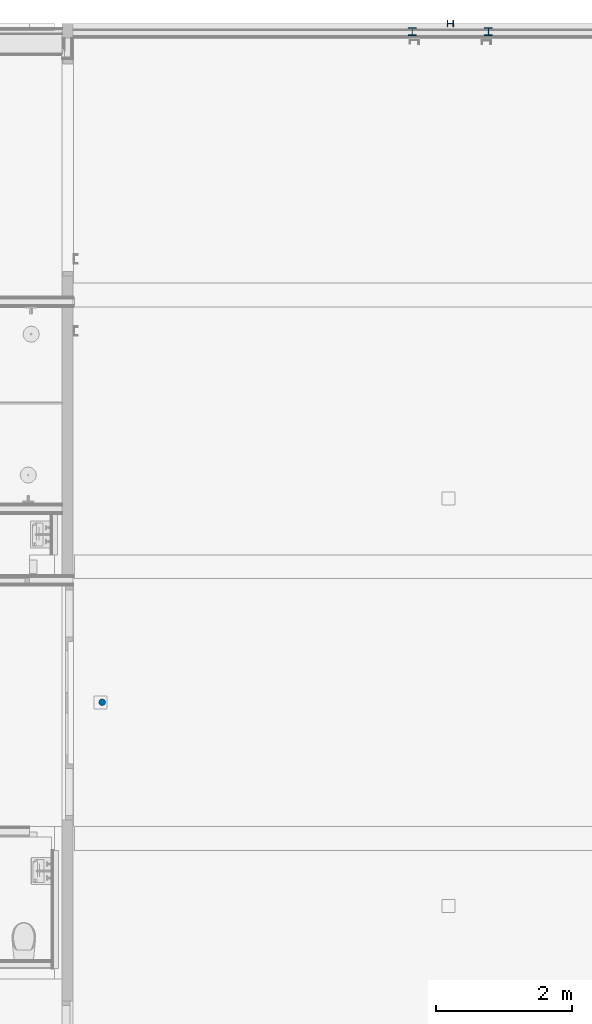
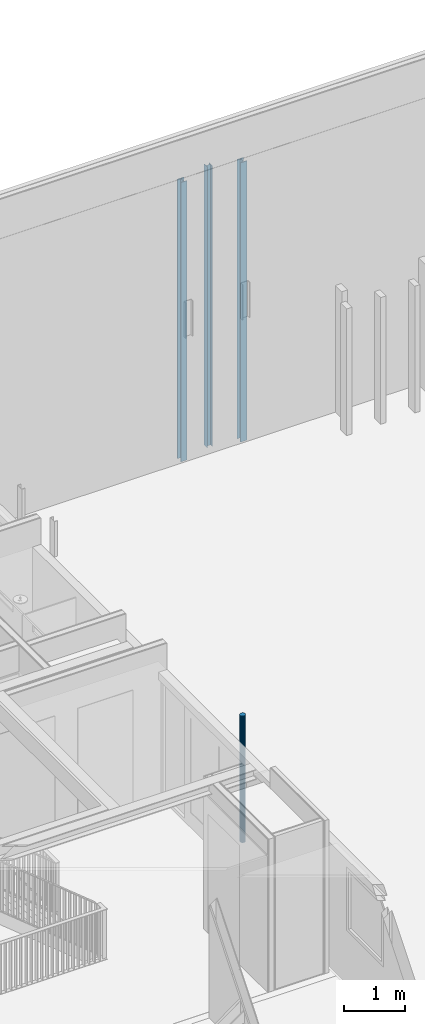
# One storey, part 2 of 35: 4 columns.
"""IFC2X3 building model written with IfcOpenShell, lengths in millimetres."""

from ifc_helpers import new_model, entity, si_unit, converted_unit, derived_unit, money_unit, direction, frame, origin_with_axes, place, context, subcontext, project, spatial, faceted_brep, material, type_object, element, save


model = new_model("IFC2X3")

# Units and contexts
model_context = context("Model", 3, precision=0.01, world=origin_with_axes(), true_north=direction((0.0, 1.0)))
body_context = subcontext(model_context, "Body", "Model", "MODEL_VIEW")
ifc_project = project(units=[si_unit("LENGTHUNIT", "METRE", prefix="MILLI"), si_unit("AREAUNIT", "SQUARE_METRE"), si_unit("VOLUMEUNIT", "CUBIC_METRE"), converted_unit("PLANEANGLEUNIT", "DEGREE", entity("IfcPlaneAngleMeasure", 0.0174532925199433), si_unit("PLANEANGLEUNIT", "RADIAN"), dimensions=[0, 0, 0, 0, 0, 0, 0]), money_unit("EUR"), converted_unit("TIMEUNIT", "Year", entity("IfcTimeMeasure", 31557600.0), si_unit("TIMEUNIT", "SECOND"), dimensions=[0, 0, 1, 0, 0, 0, 0]), si_unit("MASSUNIT", "GRAM", prefix="KILO"), si_unit("THERMODYNAMICTEMPERATUREUNIT", "DEGREE_CELSIUS"), si_unit("LUMINOUSINTENSITYUNIT", "LUMEN"), si_unit("ENERGYUNIT", "JOULE", prefix="MEGA"), derived_unit("THERMALCONDUCTANCEUNIT", [(si_unit("POWERUNIT", "WATT"), 1), (si_unit("LENGTHUNIT", "METRE"), -1), (si_unit("THERMODYNAMICTEMPERATUREUNIT", "KELVIN"), -1)]), derived_unit("SPECIFICHEATCAPACITYUNIT", [(si_unit("ENERGYUNIT", "JOULE"), 1), (si_unit("MASSUNIT", "GRAM", prefix="KILO"), -1), (si_unit("THERMODYNAMICTEMPERATUREUNIT", "KELVIN"), -1)]), derived_unit("MASSDENSITYUNIT", [(si_unit("MASSUNIT", "GRAM", prefix="KILO"), 1), (si_unit("VOLUMEUNIT", "CUBIC_METRE"), -1)])], contexts=[model_context])

# Site, building, storey
site_placement = place(None, origin_with_axes())
site = spatial("IfcSite", under=ifc_project, at=site_placement, Name="<site naam>", CompositionType="ELEMENT")
building_placement = place(site_placement, origin_with_axes())
building = spatial("IfcBuilding", under=site, at=building_placement, Name="<Naam gebouw>", CompositionType="ELEMENT")
storey_placement = place(building_placement, frame((0.0, 0.0, 6345.0), z_axis=(0.0, 0.0, 1.0), x_axis=(1.0, 0.0, 0.0)))
storey = spatial("IfcBuildingStorey", under=building, at=storey_placement, Name="02 2e tussenverdieping", CompositionType="ELEMENT", Elevation=6345.0)

# Columns
ifc_material_1 = material(Name="staal C")
column_type_1 = type_object("IfcColumnType", Name="Profiel H algemeen 100 x 96", PredefinedType="COLUMN")
column_1_placement = place(storey_placement, frame((63870.00000000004, 20000.00000000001, 0.0), z_axis=(0.0, 0.0, 1.0), x_axis=(0.0, 1.0, 0.0)))
element("IfcColumn", 1, at=column_1_placement, inside=storey, type_object=column_type_1, material=ifc_material_1, Name="28_Kolom_Profiel", ObjectType="COLUMN", context=body_context, shape_type="Brep", body=[
    faceted_brep([(-50.00000010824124, -48.00000037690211, 5574.999999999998), (-50.00000010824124, -48.00000037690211, 0.0), (50.00000010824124, -48.00000037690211, 0.0), (50.00000010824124, -48.00000037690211, 5574.999999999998), (-50.00000016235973, -39.99999789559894, 5574.999999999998), (-50.00000016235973, -39.99999789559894, 0.0), (-2.500000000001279, -39.99999789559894, 0.0), (-2.499999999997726, 39.99999789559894, 0.0), (-50.00000016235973, 39.99999789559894, 0.0), (-50.00000010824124, 48.00000037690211, 0.0), (50.00000010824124, 48.00000037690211, 0.0), (50.00000016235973, 39.99999789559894, 0.0), (2.500000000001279, 39.99999789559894, 0.0), (2.500000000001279, -39.99999789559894, 0.0), (50.00000016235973, -39.99999789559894, 0.0), (50.00000016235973, -39.99999789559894, 5574.999999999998), (2.500000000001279, -39.99999789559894, 5574.999999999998), (2.500000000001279, 39.99999789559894, 5574.999999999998), (50.00000016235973, 39.99999789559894, 5574.999999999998), (50.00000010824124, 48.00000037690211, 5574.999999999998), (-50.00000010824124, 48.00000037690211, 5574.999999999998), (-50.00000016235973, 39.99999789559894, 5574.999999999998), (-2.499999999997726, 39.99999789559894, 5574.999999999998), (-2.500000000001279, -39.99999789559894, 5574.999999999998)], [[[0, 1, 2, 3]], [[4, 5, 1, 0]], [[2, 1, 5, 6, 7, 8, 9, 10, 11, 12, 13, 14]], [[3, 2, 14, 15]], [[4, 0, 3, 15, 16, 17, 18, 19, 20, 21, 22, 23]], [[23, 6, 5, 4]], [[22, 7, 6, 23]], [[21, 8, 7, 22]], [[20, 9, 8, 21]], [[19, 10, 9, 20]], [[18, 11, 10, 19]], [[17, 12, 11, 18]], [[16, 13, 12, 17]], [[15, 14, 13, 16]]]),
])
ifc_material_2 = material(Name="ALG - ALGEMEEN")
column_type_2 = type_object("IfcColumnType", Name="ALG - ALGEMEEN D100", PredefinedType="COLUMN")
column_2_placement = place(storey_placement, frame((58745.02500000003, 10005.4553390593, 0.0), z_axis=(0.0, 0.0, 1.0), x_axis=(1.0, 0.0, 0.0)))
element("IfcColumn", 2, at=column_2_placement, inside=storey, type_object=column_type_2, material=ifc_material_2, Name="77_Kolom_ALG", ObjectType="COLUMN", context=body_context, shape_type="Brep", body=[
    faceted_brep([(46.19397662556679, -19.13417161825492, 2517.500000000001), (46.19397662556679, -19.13417161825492, 3.000000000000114), (49.99999999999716, 0.0, 3.000000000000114), (49.99999999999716, 0.0, 2517.500000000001), (35.35533905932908, -35.35533905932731, 2517.500000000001), (35.35533905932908, -35.35533905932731, 3.000000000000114), (35.35533905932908, 35.35533905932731, 3.000000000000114), (46.19397662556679, 19.13417161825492, 3.000000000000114), (19.13417161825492, -46.19397662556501, 3.000000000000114), (0.0, -50.00000000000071, 3.000000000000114), (-19.13417161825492, -46.19397662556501, 3.000000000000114), (-35.35533905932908, -35.35533905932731, 3.000000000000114), (-46.19397662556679, -19.13417161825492, 3.000000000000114), (-49.99999999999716, 0.0, 3.000000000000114), (-46.19397662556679, 19.13417161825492, 3.000000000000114), (-35.35533905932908, 35.35533905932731, 3.000000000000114), (-19.13417161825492, 46.19397662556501, 3.000000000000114), (0.0, 50.00000000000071, 3.000000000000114), (19.13417161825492, 46.19397662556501, 3.000000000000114), (46.19397662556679, 19.13417161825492, 2517.500000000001), (-35.35533905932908, 35.35533905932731, 2517.500000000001), (-46.19397662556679, 19.13417161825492, 2517.500000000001), (-49.99999999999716, 0.0, 2517.500000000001), (-46.19397662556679, -19.13417161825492, 2517.500000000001), (-35.35533905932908, -35.35533905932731, 2517.500000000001), (-19.13417161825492, -46.19397662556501, 2517.500000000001), (0.0, -50.00000000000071, 2517.500000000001), (19.13417161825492, -46.19397662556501, 2517.500000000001), (35.35533905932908, 35.35533905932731, 2517.500000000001), (19.13417161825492, 46.19397662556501, 2517.500000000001), (0.0, 50.00000000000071, 2517.500000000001), (-19.13417161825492, 46.19397662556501, 2517.500000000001)], [[[0, 1, 2, 3]], [[4, 5, 1, 0]], [[6, 7, 2, 1, 5, 8, 9, 10, 11, 12, 13, 14, 15, 16, 17, 18]], [[3, 2, 7, 19]], [[20, 21, 22, 23, 24, 25, 26, 27, 4, 0, 3, 19, 28, 29, 30, 31]], [[27, 8, 5, 4]], [[19, 7, 6, 28]], [[26, 9, 8, 27]], [[25, 10, 9, 26]], [[24, 11, 10, 25]], [[23, 12, 11, 24]], [[22, 13, 12, 23]], [[21, 14, 13, 22]], [[20, 15, 14, 21]], [[31, 16, 15, 20]], [[30, 17, 16, 31]], [[29, 18, 17, 30]], [[28, 6, 18, 29]]]),
])
column_type_3 = type_object("IfcColumnType", Name="Profiel H algemeen 120 x 120", PredefinedType="COLUMN")
column_3_placement = place(storey_placement, frame((64429.99999999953, 19879.00116233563, 0.0), z_axis=(0.0, 0.0, 1.0), x_axis=(1.0, 0.0, 0.0)))
element("IfcColumn", 3, at=column_3_placement, inside=storey, type_object=column_type_3, material=ifc_material_1, Name="28_Kolom_Profiel", ObjectType="COLUMN", context=body_context, shape_type="Brep", body=[
    faceted_brep([(-60.00000000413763, -60.00152831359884, 5545.000000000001), (-60.00000000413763, -60.00152831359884, 0.0), (60.00000000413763, -60.00152831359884, 0.0), (60.00000000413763, -60.00152831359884, 5545.000000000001), (-60.00000000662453, -49.00152820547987, 5545.000000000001), (-60.00000000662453, -49.00152820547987, 0.0), (-3.249999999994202, -49.00152820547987, 0.0), (-3.249999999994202, 49.00152820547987, 0.0), (-60.00000000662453, 49.00152820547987, 0.0), (-60.00000000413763, 60.00152831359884, 0.0), (60.00000000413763, 60.00152831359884, 0.0), (60.00000000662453, 49.00152820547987, 0.0), (3.249999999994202, 49.00152820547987, 0.0), (3.249999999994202, -49.00152820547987, 0.0), (60.00000000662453, -49.00152820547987, 0.0), (60.00000000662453, -49.00152820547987, 5545.000000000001), (3.249999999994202, -49.00152820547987, 5545.000000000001), (3.249999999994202, 49.00152820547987, 5545.000000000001), (60.00000000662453, 49.00152820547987, 5545.000000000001), (60.00000000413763, 60.00152831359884, 5545.000000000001), (-60.00000000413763, 60.00152831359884, 5545.000000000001), (-60.00000000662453, 49.00152820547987, 5545.000000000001), (-3.249999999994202, 49.00152820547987, 5545.000000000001), (-3.249999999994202, -49.00152820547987, 5545.000000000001)], [[[0, 1, 2, 3]], [[4, 5, 1, 0]], [[2, 1, 5, 6, 7, 8, 9, 10, 11, 12, 13, 14]], [[3, 2, 14, 15]], [[4, 0, 3, 15, 16, 17, 18, 19, 20, 21, 22, 23]], [[23, 6, 5, 4]], [[22, 7, 6, 23]], [[21, 8, 7, 22]], [[20, 9, 8, 21]], [[19, 10, 9, 20]], [[18, 11, 10, 19]], [[17, 12, 11, 18]], [[16, 13, 12, 17]], [[15, 14, 13, 16]]]),
])
column_4_placement = place(storey_placement, frame((63310.00000000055, 19879.00116233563, 0.0), z_axis=(0.0, 0.0, 1.0), x_axis=(1.0, 0.0, 0.0)))
element("IfcColumn", 4, at=column_4_placement, inside=storey, type_object=column_type_3, material=ifc_material_1, Name="28_Kolom_Profiel", ObjectType="COLUMN", context=body_context, shape_type="Brep", body=[
    faceted_brep([(-60.00000000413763, -60.00152831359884, 5545.000000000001), (-60.00000000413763, -60.00152831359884, 0.0), (60.00000000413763, -60.00152831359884, 0.0), (60.00000000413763, -60.00152831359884, 5545.000000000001), (-60.00000000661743, -49.00152820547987, 5545.000000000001), (-60.00000000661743, -49.00152820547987, 0.0), (-3.250000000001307, -49.00152820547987, 0.0), (-3.250000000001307, 49.00152820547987, 0.0), (-60.00000000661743, 49.00152820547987, 0.0), (-60.00000000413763, 60.00152831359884, 0.0), (60.00000000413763, 60.00152831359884, 0.0), (60.00000000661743, 49.00152820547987, 0.0), (3.250000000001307, 49.00152820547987, 0.0), (3.250000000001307, -49.00152820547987, 0.0), (60.00000000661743, -49.00152820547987, 0.0), (60.00000000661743, -49.00152820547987, 5545.000000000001), (3.250000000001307, -49.00152820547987, 5545.000000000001), (3.250000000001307, 49.00152820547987, 5545.000000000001), (60.00000000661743, 49.00152820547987, 5545.000000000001), (60.00000000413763, 60.00152831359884, 5545.000000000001), (-60.00000000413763, 60.00152831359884, 5545.000000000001), (-60.00000000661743, 49.00152820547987, 5545.000000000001), (-3.250000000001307, 49.00152820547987, 5545.000000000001), (-3.250000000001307, -49.00152820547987, 5545.000000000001)], [[[0, 1, 2, 3]], [[4, 5, 1, 0]], [[2, 1, 5, 6, 7, 8, 9, 10, 11, 12, 13, 14]], [[3, 2, 14, 15]], [[4, 0, 3, 15, 16, 17, 18, 19, 20, 21, 22, 23]], [[23, 6, 5, 4]], [[22, 7, 6, 23]], [[21, 8, 7, 22]], [[20, 9, 8, 21]], [[19, 10, 9, 20]], [[18, 11, 10, 19]], [[17, 12, 11, 18]], [[16, 13, 12, 17]], [[15, 14, 13, 16]]]),
])

save(model, "model.ifc")
